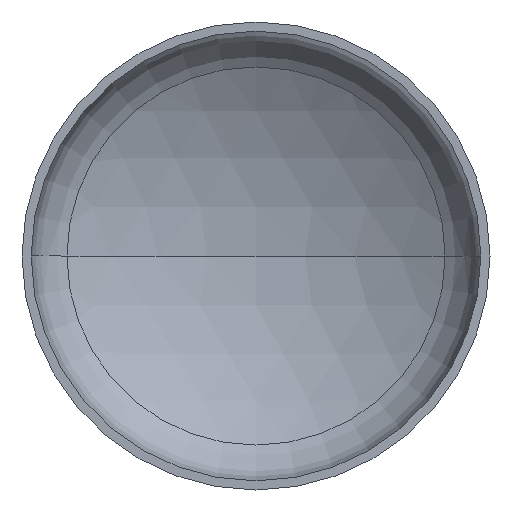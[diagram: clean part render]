
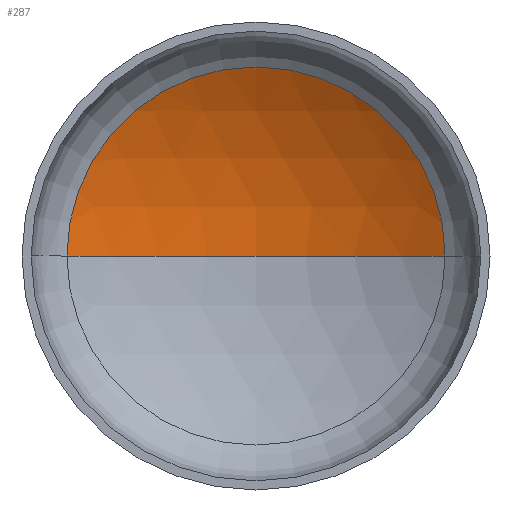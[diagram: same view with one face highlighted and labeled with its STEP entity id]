
A CAD part, front view. The second image highlights one B-rep face of the part: STEP entity #287.
In plain terms, the highlighted spherical face has radius 4800 mm.
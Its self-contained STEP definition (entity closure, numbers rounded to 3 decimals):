
#12 = ORIENTED_EDGE ( 'NONE', *, *, #110, .T. ) ;
#24 = AXIS2_PLACEMENT_3D ( 'NONE', #378, #382, #82 ) ;
#26 = ORIENTED_EDGE ( 'NONE', *, *, #112, .T. ) ;
#34 = VERTEX_POINT ( 'NONE', #249 ) ;
#64 = AXIS2_PLACEMENT_3D ( 'NONE', #208, #203, #206 ) ;
#69 = AXIS2_PLACEMENT_3D ( 'NONE', #286, #282, #223 ) ;
#70 = AXIS2_PLACEMENT_3D ( 'NONE', #275, #180, #196 ) ;
#80 = ORIENTED_EDGE ( 'NONE', *, *, #118, .F. ) ;
#82 = DIRECTION ( 'NONE',  ( -1., 0., 0. ) ) ;
#103 = VERTEX_POINT ( 'NONE', #200 ) ;
#110 = EDGE_CURVE ( 'NONE', #103, #149, #409, .T. ) ;
#112 = EDGE_CURVE ( 'NONE', #34, #103, #235, .T. ) ;
#118 = EDGE_CURVE ( 'NONE', #34, #149, #170, .T. ) ;
#136 = SPHERICAL_SURFACE ( 'NONE', #24, 4800. ) ;
#144 = EDGE_LOOP ( 'NONE', ( #80, #26, #12 ) ) ;
#149 = VERTEX_POINT ( 'NONE', #214 ) ;
#170 = CIRCLE ( 'NONE', #64, 4800. ) ;
#180 = DIRECTION ( 'NONE',  ( 0., -1., 0. ) ) ;
#186 = FACE_OUTER_BOUND ( 'NONE', #144, .T. ) ;
#196 = DIRECTION ( 'NONE',  ( 1., 0., 0. ) ) ;
#200 = CARTESIAN_POINT ( 'NONE',  ( 2424.155, 873.368, 0. ) ) ;
#203 = DIRECTION ( 'NONE',  ( 0., 0., 1. ) ) ;
#206 = DIRECTION ( 'NONE',  ( 1., 0., 0. ) ) ;
#208 = CARTESIAN_POINT ( 'NONE',  ( 0., -3269.514, 0. ) ) ;
#214 = CARTESIAN_POINT ( 'NONE',  ( -2424.155, 873.368, 0. ) ) ;
#223 = DIRECTION ( 'NONE',  ( -1., 0., 0. ) ) ;
#235 = CIRCLE ( 'NONE', #69, 4800. ) ;
#249 = CARTESIAN_POINT ( 'NONE',  ( 0., 1530.486, 0. ) ) ;
#275 = CARTESIAN_POINT ( 'NONE',  ( 0., 873.368, 0. ) ) ;
#282 = DIRECTION ( 'NONE',  ( 0., 0., -1. ) ) ;
#286 = CARTESIAN_POINT ( 'NONE',  ( 0., -3269.514, 0. ) ) ;
#287 = ADVANCED_FACE ( 'NONE', ( #186 ), #136, .F. ) ;
#378 = CARTESIAN_POINT ( 'NONE',  ( 0., -3269.514, 0. ) ) ;
#382 = DIRECTION ( 'NONE',  ( 0., 0., -1. ) ) ;
#409 = CIRCLE ( 'NONE', #70, 2424.155 ) ;
